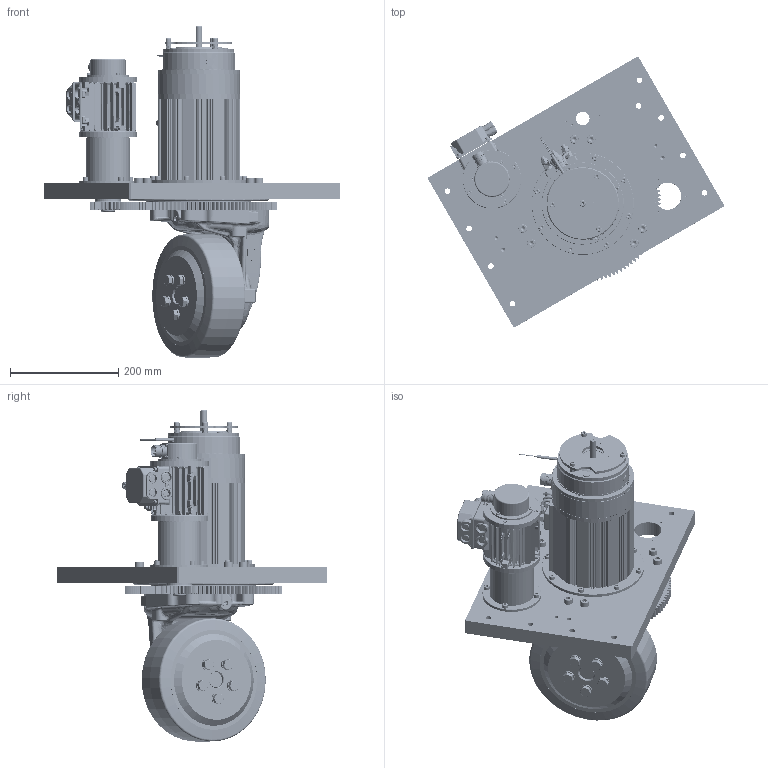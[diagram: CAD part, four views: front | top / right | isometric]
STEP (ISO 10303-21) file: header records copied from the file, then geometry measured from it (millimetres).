
FILE_DESCRIPTION(/* description */ (''),/* implementation_level */ '2;1');
FILE_NAME(/* name */ 'WR230FMS-PMAC.stp',/* time_stamp */ '2026-05-29T15:09:13+02:00',/* author */ ('elena.senatore'),/* organization */ (''),/* preprocessor_version */ 'ST-DEVELOPER v20',/* originating_system */ 'Autodesk Inventor 2025',/* authorisation */ '');
FILE_SCHEMA (('AUTOMOTIVE_DESIGN { 1 0 10303 214 3 1 1 }'));
Products named in the file (1): WR230FMS-PMAC
Bounding box: 547.71 x 500.13 x 613.93 mm (x, y, z)
Volume: 10436529.3 mm3; surface area: 2019095.2 mm2
Topology: 55 solids, 396 shells, 18282 faces, 48389 edges, 30770 vertices
Faces by surface type: plane 11303, cylinder 2928, bspline 2361, cone 930, torus 616, sphere 144
Full cylindrical faces by diameter (mm): 0.5 x2, 0.9 x24, 1.5 x2, 2 x4, 2.2 x3, 2.4 x3, 2.459 x10, 2.5 x3, 2.9 x16, 3 x3, 3.08 x2, 3.2 x12, 3.242 x29, 3.28 x4, 3.4 x1, 3.48 x1, 4 x14, 4.134 x22, 4.2 x3, 4.3 x3, 4.5 x6, 4.917 x29, 5 x30, 5.2 x2, 5.3 x22, 5.4 x1, 5.5 x19, 6 x43, 6.2 x9, 6.3 x3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
Entity records: 715498 total; most frequent: CARTESIAN_POINT 249678, ORIENTED_EDGE 96212, DIRECTION 90171, EDGE_CURVE 48106, AXIS2_PLACEMENT_3D 31975, VERTEX_POINT 30807, LINE 26221, VECTOR 26221
